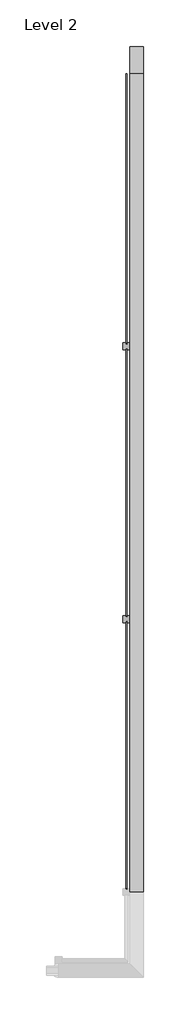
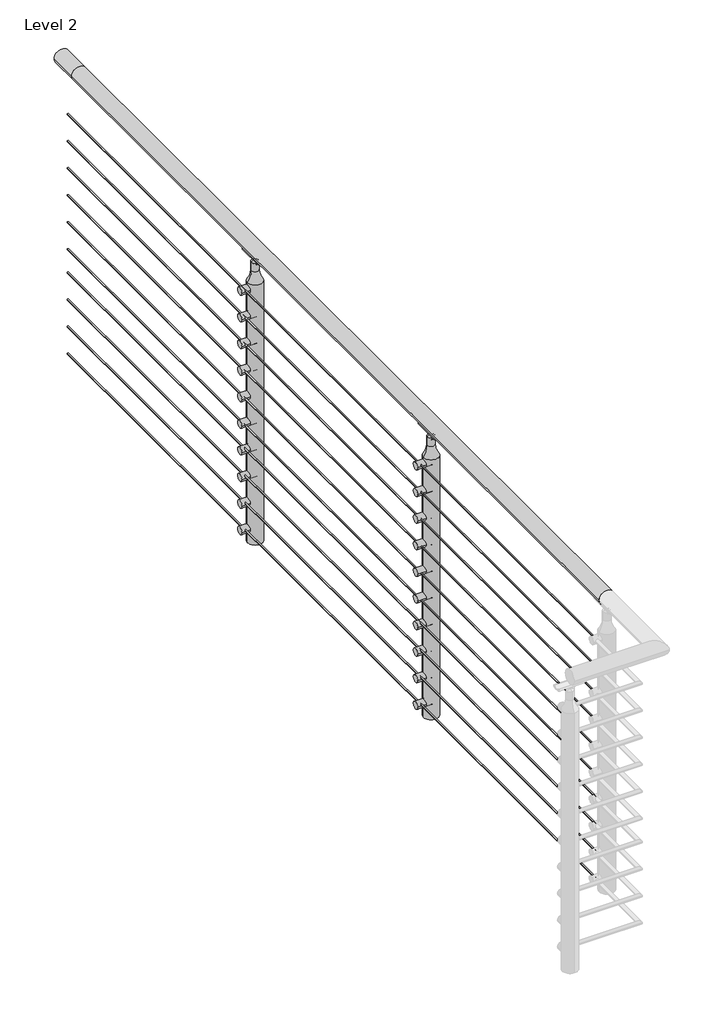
# One storey, part 7 of 21: 1 railing.
"""IFC4 building model written with IfcOpenShell, lengths in millimetres."""

import ifcopenshell
import ifcopenshell.guid

model = None  # the IFC model being written
_history = None  # IfcOwnerHistory: only IFC2X3 demands one
_inside = {}  # id of a spatial element -> (the spatial element, [elements in it])
_under = {}  # id of a project, library or spatial element -> (it, [spatial elements below it])
_declared = {}  # id of a project -> (the project, [libraries it declares])
_typed = {}  # id of a type object -> (the type object, [elements of that type])
_made_of = {}  # id of a material, layer set ... -> (it, [elements and type objects made of it])


def new_model(schema):
    """Start an empty IFC model of exactly this schema.

    Asked for "IFC4X3", IfcOpenShell would pick the latest addendum, in which some entities
    have other attributes; the version numbers below select the first issue.
    IFC2X3 requires an IfcOwnerHistory on every rooted entity: one is made here for all.
    """
    global model, _history
    if schema == "IFC4X3":
        model = ifcopenshell.file(schema_version=(4, 3, 0, 0))
    else:
        model = ifcopenshell.file(schema=schema)
    _inside.clear()
    _under.clear()
    _declared.clear()
    _typed.clear()
    _made_of.clear()
    _history = None
    if model.schema == "IFC2X3":
        org = make("IfcOrganization", Name="unknown")
        user = make(
            "IfcPersonAndOrganization",
            ThePerson=make("IfcPerson", FamilyName="unknown"),
            TheOrganization=org,
        )
        app = make(
            "IfcApplication",
            ApplicationDeveloper=org,
            Version="unknown",
            ApplicationFullName="unknown",
            ApplicationIdentifier="unknown",
        )
        _history = make(
            "IfcOwnerHistory",
            OwningUser=user,
            OwningApplication=app,
            ChangeAction="ADDED",
            CreationDate=0,
        )
    return model


def make(cls, **values):
    """One entity of the class cls with the attributes given. An attribute that is None is left unset."""
    return model.create_entity(
        cls, **{name: value for name, value in values.items() if value is not None}
    )


def rooted(cls, **values):
    """An entity with a GlobalId (a new one), such as an element, a storey or a relation."""
    return make(cls, GlobalId=ifcopenshell.guid.new(), OwnerHistory=_history, **values)


def si_unit(unit_type, name, prefix=None):
    """IfcSIUnit, for example si_unit("LENGTHUNIT", "METRE", prefix="MILLI")."""
    return make("IfcSIUnit", UnitType=unit_type, Prefix=prefix, Name=name)


def assignment(units):
    """IfcUnitAssignment: the units of a project."""
    return None if units is None else make("IfcUnitAssignment", Units=units)


def point(xyz):
    """IfcCartesianPoint."""
    return None if xyz is None else make("IfcCartesianPoint", Coordinates=xyz)


def direction(xyz):
    """IfcDirection."""
    return None if xyz is None else make("IfcDirection", DirectionRatios=xyz)


def frame(location, z_axis=None, x_axis=None):
    """IfcAxis2Placement3D, a coordinate frame: its origin and axes. An axis left out is left unset."""
    return make(
        "IfcAxis2Placement3D",
        Location=point(location),
        Axis=direction(z_axis),
        RefDirection=direction(x_axis),
    )


def frame_2d(location, x_axis=None):
    """IfcAxis2Placement2D, a coordinate frame in the plane: its origin and x axis."""
    return make(
        "IfcAxis2Placement2D", Location=point(location), RefDirection=direction(x_axis)
    )


def origin():
    """The frame at (0, 0, 0) with its axes left unset."""
    return frame((0.0, 0.0, 0.0))


def place(relative_to, where):
    """IfcLocalPlacement: puts the frame where relative to a parent placement (None: the world)."""
    return make(
        "IfcLocalPlacement", PlacementRelTo=relative_to, RelativePlacement=where
    )


def context(
    kind, dimensions, precision=None, world=None, true_north=None, identifier=None
):
    """IfcGeometricRepresentationContext, for example the 3D "Model" context."""
    return make(
        "IfcGeometricRepresentationContext",
        ContextIdentifier=identifier,
        ContextType=kind,
        CoordinateSpaceDimension=dimensions,
        Precision=precision,
        WorldCoordinateSystem=world,
        TrueNorth=true_north,
    )


def project(units=None, contexts=None):
    """IfcProject with its units and contexts."""
    return rooted(
        "IfcProject",
        Name="project",
        RepresentationContexts=contexts,
        UnitsInContext=assignment(units),
    )


def spatial(cls, under=None, at=None, **own):
    """A site, building, storey or space (cls), placed at a placement, below another one or the project."""
    s = rooted(cls, ObjectPlacement=at, **own)
    if under is not None:
        _under.setdefault(under.id(), (under, []))[1].append(s)
    return s


def polyline(points):
    """IfcPolyline through the points."""
    return make("IfcPolyline", Points=[point(p) for p in points])


def circle_curve(where, radius):
    """IfcCircle in the frame where."""
    return make("IfcCircle", Position=where, Radius=radius)


def ellipse_curve(where, semi_axis1, semi_axis2):
    """IfcEllipse in the frame where."""
    return make(
        "IfcEllipse", Position=where, SemiAxis1=semi_axis1, SemiAxis2=semi_axis2
    )


def trimmed(basis, trim1, trim2, sense, master):
    """IfcTrimmedCurve: the piece of a basis curve between two trims."""
    return make(
        "IfcTrimmedCurve",
        BasisCurve=basis,
        Trim1=trim1,
        Trim2=trim2,
        SenseAgreement=sense,
        MasterRepresentation=master,
    )


def segment(curve, same_sense, transition):
    """IfcCompositeCurveSegment."""
    return make(
        "IfcCompositeCurveSegment",
        Transition=transition,
        SameSense=same_sense,
        ParentCurve=curve,
    )


def composite_curve(segments, self_intersect=None):
    """IfcCompositeCurve: segments joined end to end."""
    return make("IfcCompositeCurve", Segments=segments, SelfIntersect=self_intersect)


def outline(outer, holes=None, kind="AREA"):
    """IfcArbitraryClosedProfileDef: a profile drawn as a closed curve; with holes, ...WithVoids."""
    if holes is None:
        return make("IfcArbitraryClosedProfileDef", ProfileType=kind, OuterCurve=outer)
    return make(
        "IfcArbitraryProfileDefWithVoids",
        ProfileType=kind,
        OuterCurve=outer,
        InnerCurves=holes,
    )


def extrude(swept, where, along, depth):
    """IfcExtrudedAreaSolid: the profile swept, set in the frame where, extruded along a direction by depth."""
    return make(
        "IfcExtrudedAreaSolid",
        SweptArea=swept,
        Position=where,
        ExtrudedDirection=direction(along),
        Depth=depth,
    )


def shape(context_of_items, identifier, shape_type, items):
    """IfcShapeRepresentation: the items that make up one representation, for example the "Body"."""
    return make(
        "IfcShapeRepresentation",
        ContextOfItems=context_of_items,
        RepresentationIdentifier=identifier,
        RepresentationType=shape_type,
        Items=items,
    )


def made_of(thing, what):
    """Note that an element or type object is made of a material, layer set ...; save() writes the relation."""
    if what is not None:
        _made_of.setdefault(what.id(), (what, []))[1].append(thing)
    return thing


def element(
    cls,
    number,
    at=None,
    inside=None,
    cuts=None,
    type_object=None,
    material=None,
    context=None,
    identifier="Body",
    shape_type=None,
    held_by="IfcProductDefinitionShape",
    body=None,
    shapes=None,
    **own,
):
    """One element of the class cls, such as IfcWall. Its Tag is "e" and its number.

    at: its placement. inside: the storey or other place that contains it. cuts: it is an
    opening in that element (IfcRelVoidsElement). A single representation is given by context,
    identifier, shape_type and body (its items); several are given by shapes. held_by: the class
    of the entity that holds the representations. save() writes the other relations.
    """
    e = rooted(cls, Tag="e%d" % number, ObjectPlacement=at, **own)
    if body is not None:
        shapes = [shape(context, identifier, shape_type, body)]
    if shapes is not None:
        e.Representation = make(held_by, Representations=shapes)
    if inside is not None:
        _inside.setdefault(inside.id(), (inside, []))[1].append(e)
    if cuts is not None:
        rooted(
            "IfcRelVoidsElement", RelatingBuildingElement=cuts, RelatedOpeningElement=e
        )
    if type_object is not None:
        _typed.setdefault(type_object.id(), (type_object, []))[1].append(e)
    return made_of(e, material)


def aggregate(whole, parts):
    """IfcRelAggregates: a whole, such as a stair, and the parts it consists of."""
    return rooted("IfcRelAggregates", RelatingObject=whole, RelatedObjects=parts)


def save(model, path):
    """Write the relations noted so far, then the file.

    IfcRelAggregates (storeys below a building ...), IfcRelContainedInSpatialStructure (elements
    in a storey), IfcRelDefinesByType, IfcRelAssociatesMaterial and IfcRelDeclares: one each for
    every whole, place, type object, material and project.
    """
    for whole, parts in _under.values():
        aggregate(whole, parts)
    for where, things in _inside.values():
        rooted(
            "IfcRelContainedInSpatialStructure",
            RelatedElements=things,
            RelatingStructure=where,
        )
    for kind, things in _typed.values():
        rooted("IfcRelDefinesByType", RelatedObjects=things, RelatingType=kind)
    for what, things in _made_of.values():
        rooted("IfcRelAssociatesMaterial", RelatedObjects=things, RelatingMaterial=what)
    for by, libraries in _declared.values():
        rooted("IfcRelDeclares", RelatingContext=by, RelatedDefinitions=libraries)
    model.write(path)


def plane_surface(at):
    """IfcPlane: the flat surface through the origin of the frame at, square to its z axis."""
    return make("IfcPlane", Position=at)


def cylinder_surface(at, radius):
    """IfcCylindricalSurface: all points at the distance radius from the z axis of the frame at."""
    return make("IfcCylindricalSurface", Position=at, Radius=radius)


def revolved_surface(curve, axis_point, axis_direction):
    """IfcSurfaceOfRevolution: the curve turned about the line through axis_point along axis_direction."""
    return make(
        "IfcSurfaceOfRevolution",
        SweptCurve=make("IfcArbitraryOpenProfileDef", ProfileType="CURVE", Curve=curve),
        AxisPosition=make("IfcAxis1Placement", Location=point(axis_point), Axis=direction(axis_direction)),
    )


def advanced_brep(points, edges, surfaces, faces):
    """IfcAdvancedBrep: a solid bounded by faces that lie on surfaces and meet in shared edges.

    An edge is (start, end): straight between two places in points (the first is 0);
    or (start, end, curve); or (start, end, curve, False) where it runs against its curve.
    A face is (place in surfaces, loops), or (place, loops, False) where it looks against
    its surface's normal. A loop lists edges by number (the first is 1), with a minus sign
    where the edge is run from its end to its start. The first loop is the outer one.
    """
    corners = [point(p) for p in points]
    vertices = [make("IfcVertexPoint", VertexGeometry=c) for c in corners]
    made = []
    for start, end, *more in edges:
        made.append(
            make(
                "IfcEdgeCurve",
                EdgeStart=vertices[start],
                EdgeEnd=vertices[end],
                EdgeGeometry=more[0] if more else make("IfcPolyline", Points=[corners[start], corners[end]]),
                SameSense=more[1] if len(more) > 1 else True,
            )
        )
    hull = []
    for where, loops, *sense in faces:
        bounds = []
        for j, loop in enumerate(loops):
            ring = [make("IfcOrientedEdge", EdgeElement=made[abs(k) - 1], Orientation=k > 0) for k in loop]
            bounds.append(
                make(
                    "IfcFaceOuterBound" if j == 0 else "IfcFaceBound",
                    Bound=make("IfcEdgeLoop", EdgeList=ring),
                    Orientation=True,
                )
            )
        hull.append(make("IfcAdvancedFace", Bounds=bounds, FaceSurface=surfaces[where], SameSense=sense[0] if sense else True))
    return make("IfcAdvancedBrep", Outer=make("IfcClosedShell", CfsFaces=hull))


model = new_model("IFC4")

# Units and contexts
model_context = context("Model", 3, world=origin())
ifc_project = project(units=[si_unit("LENGTHUNIT", "METRE", prefix="MILLI")], contexts=[model_context])

# Site, building, storey
site = spatial("IfcSite", under=ifc_project)
building = spatial("IfcBuilding", under=site)
storey = spatial("IfcBuildingStorey", under=building, Name="Level 2", Elevation=3048.0)

# Railing
placement = place(None, origin())
element("IfcRailing", 1, ObjectType="VIVA-CIRCA-Multiline-Cable-Weld Mount-Straight", at=placement, inside=storey, context=model_context, shape_type="SolidModel", body=[
    advanced_brep(
    [(46443.7072927, -68527.1034511, 4102.1), (46392.9072927, -68527.1034511, 4102.1), (46443.7072927, -65479.1034511, 4102.1), (46392.9072927, -65479.1034511, 4102.1), (46443.7072927, -65377.5034511, 4102.1), (46392.9072927, -65377.5034511, 4102.1)],
    [
        (0, 1, circle_curve(frame((46418.3072927, -68527.1034511, 4102.1), z_axis=(0.0, -1.0, 0.0), x_axis=(-1.0, 0.0, 0.0)), 25.4)),
        (1, 0, circle_curve(frame((46418.3072927, -68527.1034511, 4102.1), z_axis=(0.0, -1.0, 0.0), x_axis=(-1.0, 0.0, 0.0)), 25.4)),
        (0, 2),
        (2, 3, circle_curve(frame((46418.3072927, -65479.1034511, 4102.1), z_axis=(0.0, -1.0, 0.0), x_axis=(-1.0, 0.0, 0.0)), 25.4)),
        (3, 1),
        (3, 2, circle_curve(frame((46418.3072927, -65479.1034511, 4102.1), z_axis=(0.0, -1.0, 0.0), x_axis=(-1.0, 0.0, 0.0)), 25.4)),
        (4, 5, circle_curve(frame((46418.3072927, -65377.5034511, 4102.1), z_axis=(0.0, 1.0, 0.0), x_axis=(-1.0, 0.0, 0.0)), 25.4)),
        (5, 4, circle_curve(frame((46418.3072927, -65377.5034511, 4102.1), z_axis=(0.0, 1.0, 0.0), x_axis=(-1.0, 0.0, 0.0)), 25.4)),
        (2, 4),
        (5, 3),
    ],
    [
        plane_surface(frame((46418.3072927, -68527.1034511, 4127.5), z_axis=(0.0, -1.0, 0.0), x_axis=(0.0, 0.0, 1.0))),
        cylinder_surface(frame((46418.3072927, -68527.1034511, 4102.1), z_axis=(0.0, -1.0, 0.0), x_axis=(-1.0, 0.0, 0.0)), 25.4),
        plane_surface(frame((46418.3072927, -65377.5034511, 4127.5), z_axis=(0.0, 1.0, 0.0), x_axis=(0.0, 0.0, 1.0))),
        cylinder_surface(frame((46418.3072927, -65479.1034511, 4102.1), z_axis=(0.0, -1.0, 0.0), x_axis=(-1.0, 0.0, 0.0)), 25.4),
    ],
    [
        (0, [[1, 2]]),
        (1, [[-1, 3, 4, 5]]),
        (1, [[-2, -5, 6, -3]]),
        (2, [[7, 8]]),
        (3, [[-4, 9, -8, 10]]),
        (3, [[-6, -10, -7, -9]]),
    ],
),
    extrude(outline(composite_curve([segment(trimmed(circle_curve(frame_2d((3972.7124, 46380.2072927)), 2.3876), [point((3972.7124, 46377.8196927))], [point((3972.7124, 46382.5948927))], False, "CARTESIAN"), True, "CONTINUOUS"), segment(trimmed(circle_curve(frame_2d((3972.7124, 46380.2072927)), 2.3876), [point((3972.7124, 46382.5948927))], [point((3972.7124, 46377.8196927))], False, "CARTESIAN"), True, "CONTINUOUS")], self_intersect=False)), frame((0.0, -68527.1034511, 0.0), z_axis=(0.0, 1.0, 0.0), x_axis=(0.0, 0.0, 1.0)), (0.0, 0.0, 1.0), 3048.0),
    extrude(outline(composite_curve([segment(trimmed(circle_curve(frame_2d((3877.4624, 46380.2072927)), 2.3876), [point((3877.4624, 46377.8196927))], [point((3877.4624, 46382.5948927))], False, "CARTESIAN"), True, "CONTINUOUS"), segment(trimmed(circle_curve(frame_2d((3877.4624, 46380.2072927)), 2.3876), [point((3877.4624, 46382.5948927))], [point((3877.4624, 46377.8196927))], False, "CARTESIAN"), True, "CONTINUOUS")], self_intersect=False)), frame((0.0, -68527.1034511, 0.0), z_axis=(0.0, 1.0, 0.0), x_axis=(0.0, 0.0, 1.0)), (0.0, 0.0, 1.0), 3048.0),
    extrude(outline(composite_curve([segment(trimmed(circle_curve(frame_2d((3782.2124, 46380.2072927)), 2.3876), [point((3782.2124, 46377.8196927))], [point((3782.2124, 46382.5948927))], False, "CARTESIAN"), True, "CONTINUOUS"), segment(trimmed(circle_curve(frame_2d((3782.2124, 46380.2072927)), 2.3876), [point((3782.2124, 46382.5948927))], [point((3782.2124, 46377.8196927))], False, "CARTESIAN"), True, "CONTINUOUS")], self_intersect=False)), frame((0.0, -68527.1034511, 0.0), z_axis=(0.0, 1.0, 0.0), x_axis=(0.0, 0.0, 1.0)), (0.0, 0.0, 1.0), 3048.0),
    extrude(outline(composite_curve([segment(trimmed(circle_curve(frame_2d((3686.9624, 46380.2072927)), 2.3876), [point((3686.9624, 46377.8196927))], [point((3686.9624, 46382.5948927))], False, "CARTESIAN"), True, "CONTINUOUS"), segment(trimmed(circle_curve(frame_2d((3686.9624, 46380.2072927)), 2.3876), [point((3686.9624, 46382.5948927))], [point((3686.9624, 46377.8196927))], False, "CARTESIAN"), True, "CONTINUOUS")], self_intersect=False)), frame((0.0, -68527.1034511, 0.0), z_axis=(0.0, 1.0, 0.0), x_axis=(0.0, 0.0, 1.0)), (0.0, 0.0, 1.0), 3048.0),
    extrude(outline(composite_curve([segment(trimmed(circle_curve(frame_2d((3591.7124, 46380.2072927)), 2.3876), [point((3591.7124, 46377.8196927))], [point((3591.7124, 46382.5948927))], False, "CARTESIAN"), True, "CONTINUOUS"), segment(trimmed(circle_curve(frame_2d((3591.7124, 46380.2072927)), 2.3876), [point((3591.7124, 46382.5948927))], [point((3591.7124, 46377.8196927))], False, "CARTESIAN"), True, "CONTINUOUS")], self_intersect=False)), frame((0.0, -68527.1034511, 0.0), z_axis=(0.0, 1.0, 0.0), x_axis=(0.0, 0.0, 1.0)), (0.0, 0.0, 1.0), 3048.0),
    extrude(outline(composite_curve([segment(trimmed(circle_curve(frame_2d((3496.4624, 46380.2072927)), 2.3876), [point((3496.4624, 46377.8196927))], [point((3496.4624, 46382.5948927))], False, "CARTESIAN"), True, "CONTINUOUS"), segment(trimmed(circle_curve(frame_2d((3496.4624, 46380.2072927)), 2.3876), [point((3496.4624, 46382.5948927))], [point((3496.4624, 46377.8196927))], False, "CARTESIAN"), True, "CONTINUOUS")], self_intersect=False)), frame((0.0, -68527.1034511, 0.0), z_axis=(0.0, 1.0, 0.0), x_axis=(0.0, 0.0, 1.0)), (0.0, 0.0, 1.0), 3048.0),
    extrude(outline(composite_curve([segment(trimmed(circle_curve(frame_2d((3413.9124, 46380.2072927)), 2.3876), [point((3413.9124, 46377.8196927))], [point((3413.9124, 46382.5948927))], False, "CARTESIAN"), True, "CONTINUOUS"), segment(trimmed(circle_curve(frame_2d((3413.9124, 46380.2072927)), 2.3876), [point((3413.9124, 46382.5948927))], [point((3413.9124, 46377.8196927))], False, "CARTESIAN"), True, "CONTINUOUS")], self_intersect=False)), frame((0.0, -68527.1034511, 0.0), z_axis=(0.0, 1.0, 0.0), x_axis=(0.0, 0.0, 1.0)), (0.0, 0.0, 1.0), 3048.0),
    extrude(outline(composite_curve([segment(trimmed(circle_curve(frame_2d((3318.6624, 46380.2072927)), 2.3876), [point((3318.6624, 46377.8196927))], [point((3318.6624, 46382.5948927))], False, "CARTESIAN"), True, "CONTINUOUS"), segment(trimmed(circle_curve(frame_2d((3318.6624, 46380.2072927)), 2.3876), [point((3318.6624, 46382.5948927))], [point((3318.6624, 46377.8196927))], False, "CARTESIAN"), True, "CONTINUOUS")], self_intersect=False)), frame((0.0, -68527.1034511, 0.0), z_axis=(0.0, 1.0, 0.0), x_axis=(0.0, 0.0, 1.0)), (0.0, 0.0, 1.0), 3048.0),
    extrude(outline(composite_curve([segment(trimmed(circle_curve(frame_2d((3223.4124, 46380.2072927)), 2.3876), [point((3223.4124, 46377.8196927))], [point((3223.4124, 46382.5948927))], False, "CARTESIAN"), True, "CONTINUOUS"), segment(trimmed(circle_curve(frame_2d((3223.4124, 46380.2072927)), 2.3876), [point((3223.4124, 46382.5948927))], [point((3223.4124, 46377.8196927))], False, "CARTESIAN"), True, "CONTINUOUS")], self_intersect=False)), frame((0.0, -68527.1034511, 0.0), z_axis=(0.0, 1.0, 0.0), x_axis=(0.0, 0.0, 1.0)), (0.0, 0.0, 1.0), 3048.0),
    extrude(outline(composite_curve([segment(trimmed(circle_curve(frame_2d((3128.1624, 46380.2072927)), 2.3876), [point((3128.1624, 46377.8196927))], [point((3128.1624, 46382.5948927))], False, "CARTESIAN"), True, "CONTINUOUS"), segment(trimmed(circle_curve(frame_2d((3128.1624, 46380.2072927)), 2.3876), [point((3128.1624, 46382.5948927))], [point((3128.1624, 46377.8196927))], False, "CARTESIAN"), True, "CONTINUOUS")], self_intersect=False)), frame((0.0, -68527.1034511, 0.0), z_axis=(0.0, 1.0, 0.0), x_axis=(0.0, 0.0, 1.0)), (0.0, 0.0, 1.0), 3048.0),
    extrude(outline(composite_curve([segment(trimmed(circle_curve(frame_2d((-66494.3097011, 3124.2)), 12.666458), [point((-66481.6432432, 3124.2))], [point((-66506.9761591, 3124.2))], False, "CARTESIAN"), True, "CONTINUOUS"), segment(trimmed(circle_curve(frame_2d((-66494.3097011, 3124.2)), 12.666458), [point((-66506.9761591, 3124.2))], [point((-66481.6432432, 3124.2))], False, "CARTESIAN"), True, "CONTINUOUS")], self_intersect=False)), frame((46367.5072927, 0.0, 0.0), z_axis=(1.0, 0.0, 0.0), x_axis=(0.0, 1.0, 0.0)), (0.0, 0.0, 1.0), 50.8),
    extrude(outline(composite_curve([segment(trimmed(circle_curve(frame_2d((-66494.3097011, 3218.0388889)), 12.666458), [point((-66481.6432432, 3218.0388889))], [point((-66506.9761591, 3218.0388889))], False, "CARTESIAN"), True, "CONTINUOUS"), segment(trimmed(circle_curve(frame_2d((-66494.3097011, 3218.0388889)), 12.666458), [point((-66506.9761591, 3218.0388889))], [point((-66481.6432432, 3218.0388889))], False, "CARTESIAN"), True, "CONTINUOUS")], self_intersect=False)), frame((46367.5072927, 0.0, 0.0), z_axis=(1.0, 0.0, 0.0), x_axis=(0.0, 1.0, 0.0)), (0.0, 0.0, 1.0), 50.8),
    extrude(outline(composite_curve([segment(trimmed(circle_curve(frame_2d((-66494.3097011, 3311.8777778)), 12.666458), [point((-66481.6432432, 3311.8777778))], [point((-66506.9761591, 3311.8777778))], False, "CARTESIAN"), True, "CONTINUOUS"), segment(trimmed(circle_curve(frame_2d((-66494.3097011, 3311.8777778)), 12.666458), [point((-66506.9761591, 3311.8777778))], [point((-66481.6432432, 3311.8777778))], False, "CARTESIAN"), True, "CONTINUOUS")], self_intersect=False)), frame((46367.5072927, 0.0, 0.0), z_axis=(1.0, 0.0, 0.0), x_axis=(0.0, 1.0, 0.0)), (0.0, 0.0, 1.0), 50.8),
    extrude(outline(composite_curve([segment(trimmed(circle_curve(frame_2d((-66494.3097011, 3405.7166667)), 12.666458), [point((-66481.6432432, 3405.7166667))], [point((-66506.9761591, 3405.7166667))], False, "CARTESIAN"), True, "CONTINUOUS"), segment(trimmed(circle_curve(frame_2d((-66494.3097011, 3405.7166667)), 12.666458), [point((-66506.9761591, 3405.7166667))], [point((-66481.6432432, 3405.7166667))], False, "CARTESIAN"), True, "CONTINUOUS")], self_intersect=False)), frame((46367.5072927, 0.0, 0.0), z_axis=(1.0, 0.0, 0.0), x_axis=(0.0, 1.0, 0.0)), (0.0, 0.0, 1.0), 50.8),
    extrude(outline(composite_curve([segment(trimmed(circle_curve(frame_2d((-66494.3097011, 3499.5555556)), 12.666458), [point((-66481.6432432, 3499.5555556))], [point((-66506.9761591, 3499.5555556))], False, "CARTESIAN"), True, "CONTINUOUS"), segment(trimmed(circle_curve(frame_2d((-66494.3097011, 3499.5555556)), 12.666458), [point((-66506.9761591, 3499.5555556))], [point((-66481.6432432, 3499.5555556))], False, "CARTESIAN"), True, "CONTINUOUS")], self_intersect=False)), frame((46367.5072927, 0.0, 0.0), z_axis=(1.0, 0.0, 0.0), x_axis=(0.0, 1.0, 0.0)), (0.0, 0.0, 1.0), 50.8),
    extrude(outline(composite_curve([segment(trimmed(circle_curve(frame_2d((-66494.3097011, 3593.3944444)), 12.666458), [point((-66481.6432432, 3593.3944444))], [point((-66506.9761591, 3593.3944444))], False, "CARTESIAN"), True, "CONTINUOUS"), segment(trimmed(circle_curve(frame_2d((-66494.3097011, 3593.3944444)), 12.666458), [point((-66506.9761591, 3593.3944444))], [point((-66481.6432432, 3593.3944444))], False, "CARTESIAN"), True, "CONTINUOUS")], self_intersect=False)), frame((46367.5072927, 0.0, 0.0), z_axis=(1.0, 0.0, 0.0), x_axis=(0.0, 1.0, 0.0)), (0.0, 0.0, 1.0), 50.8),
    extrude(outline(composite_curve([segment(trimmed(circle_curve(frame_2d((-66494.3097011, 3687.2333333)), 12.666458), [point((-66481.6432432, 3687.2333333))], [point((-66506.9761591, 3687.2333333))], False, "CARTESIAN"), True, "CONTINUOUS"), segment(trimmed(circle_curve(frame_2d((-66494.3097011, 3687.2333333)), 12.666458), [point((-66506.9761591, 3687.2333333))], [point((-66481.6432432, 3687.2333333))], False, "CARTESIAN"), True, "CONTINUOUS")], self_intersect=False)), frame((46367.5072927, 0.0, 0.0), z_axis=(1.0, 0.0, 0.0), x_axis=(0.0, 1.0, 0.0)), (0.0, 0.0, 1.0), 50.8),
    extrude(outline(composite_curve([segment(trimmed(circle_curve(frame_2d((-66494.3097011, 3781.0722222)), 12.666458), [point((-66481.6432432, 3781.0722222))], [point((-66506.9761591, 3781.0722222))], False, "CARTESIAN"), True, "CONTINUOUS"), segment(trimmed(circle_curve(frame_2d((-66494.3097011, 3781.0722222)), 12.666458), [point((-66506.9761591, 3781.0722222))], [point((-66481.6432432, 3781.0722222))], False, "CARTESIAN"), True, "CONTINUOUS")], self_intersect=False)), frame((46367.5072927, 0.0, 0.0), z_axis=(1.0, 0.0, 0.0), x_axis=(0.0, 1.0, 0.0)), (0.0, 0.0, 1.0), 50.8),
    extrude(outline(composite_curve([segment(trimmed(circle_curve(frame_2d((-66494.3097011, 3968.75)), 12.666458), [point((-66481.6432432, 3968.75))], [point((-66506.9761591, 3968.75))], False, "CARTESIAN"), True, "CONTINUOUS"), segment(trimmed(circle_curve(frame_2d((-66494.3097011, 3968.75)), 12.666458), [point((-66506.9761591, 3968.75))], [point((-66481.6432432, 3968.75))], False, "CARTESIAN"), True, "CONTINUOUS")], self_intersect=False)), frame((46367.5072927, 0.0, 0.0), z_axis=(1.0, 0.0, 0.0), x_axis=(0.0, 1.0, 0.0)), (0.0, 0.0, 1.0), 50.8),
    extrude(outline(composite_curve([segment(trimmed(circle_curve(frame_2d((-66494.3097011, 3874.9111111)), 12.666458), [point((-66481.6432432, 3874.9111111))], [point((-66506.9761591, 3874.9111111))], False, "CARTESIAN"), True, "CONTINUOUS"), segment(trimmed(circle_curve(frame_2d((-66494.3097011, 3874.9111111)), 12.666458), [point((-66506.9761591, 3874.9111111))], [point((-66481.6432432, 3874.9111111))], False, "CARTESIAN"), True, "CONTINUOUS")], self_intersect=False)), frame((46367.5072927, 0.0, 0.0), z_axis=(1.0, 0.0, 0.0), x_axis=(0.0, 1.0, 0.0)), (0.0, 0.0, 1.0), 50.8),
    extrude(outline(composite_curve([segment(trimmed(circle_curve(frame_2d((4103.4254922, 46418.2105643)), 25.4345159), [point((4081.3106679, 46430.7743672))], [point((4081.2157471, 46405.8153306))], True, "CARTESIAN"), True, "CONTINUOUS"), segment(trimmed(circle_curve(frame_2d((4078.7132623, 46404.5706774)), 2.7949225), [point((4081.2157471, 46405.8153306))], [point((4076.3406769, 46403.0933724))], False, "CARTESIAN"), True, "CONTINUOUS"), segment(trimmed(circle_curve(frame_2d((4104.1881188, 46418.3440274)), 31.75), [point((4076.3406769, 46403.0933724))], [point((4076.9214354, 46434.6102646))], False, "CARTESIAN"), True, "CONTINUOUS"), segment(trimmed(circle_curve(frame_2d((4078.7923545, 46432.3219249)), 2.9558141), [point((4076.9214354, 46434.6102646))], [point((4081.3106679, 46430.7743672))], False, "CARTESIAN"), True, "CONTINUOUS")], self_intersect=False)), frame((0.0, -66539.9439761, 0.0), z_axis=(0.0, 1.0, 0.0), x_axis=(0.0, 0.0, 1.0)), (0.0, 0.0, 1.0), 90.4748),
    advanced_brep(
    [(46415.7672927, -66467.6386612, 4072.6506908), (46415.7672927, -66482.0065761, 4058.282776), (46415.7672927, -66507.4065761, 4058.282776), (46415.7672927, -66521.774491, 4072.6506908), (46420.8472927, -66467.6386612, 4072.6506908), (46420.8472927, -66521.774491, 4072.6506908), (46420.8472927, -66507.4065761, 4058.282776), (46420.8472927, -66482.0065761, 4058.282776)],
    [
        (0, 1, circle_curve(frame((46415.7672927, -66467.6386612, 4058.282776), z_axis=(1.0, 0.0, 0.0), x_axis=(0.0, -1.0, 0.0)), 14.3679149)),
        (1, 2, circle_curve(frame((46415.7672927, -66494.7065761, 4058.282776), z_axis=(-1.0, 0.0, 0.0), x_axis=(0.0, -1.0, 0.0)), 12.7)),
        (2, 3, circle_curve(frame((46415.7672927, -66521.774491, 4058.282776), z_axis=(1.0, 0.0, 0.0), x_axis=(0.0, -1.0, 0.0)), 14.3679149)),
        (3, 0),
        (4, 5),
        (5, 6, circle_curve(frame((46420.8472927, -66521.774491, 4058.282776), z_axis=(-1.0, 0.0, 0.0), x_axis=(0.0, -1.0, 0.0)), 14.3679149)),
        (6, 7, circle_curve(frame((46420.8472927, -66494.7065761, 4058.282776), z_axis=(1.0, 0.0, 0.0), x_axis=(0.0, -1.0, 0.0)), 12.7)),
        (7, 4, circle_curve(frame((46420.8472927, -66467.6386612, 4058.282776), z_axis=(-1.0, 0.0, 0.0), x_axis=(0.0, -1.0, 0.0)), 14.3679149)),
        (0, 4),
        (7, 1),
        (6, 2),
        (5, 3),
    ],
    [
        plane_surface(frame((46415.7672927, -66482.0065761, 4058.282776), z_axis=(-1.0, 0.0, 0.0), x_axis=(0.0, 0.0, -1.0))),
        plane_surface(frame((46420.8472927, -66482.0065761, 4058.282776), z_axis=(1.0, 0.0, 0.0), x_axis=(0.0, 0.0, 1.0))),
        revolved_surface(polyline([(46420.8472927, -66482.0065761, 4058.282776), (46415.7672927, -66482.0065761, 4058.282776)]), (46420.8472927, -66467.6386612, 4058.282776), (1.0, 0.0, 0.0)),
        cylinder_surface(frame((46420.8472927, -66494.7065761, 4058.282776), z_axis=(-1.0, 0.0, 0.0), x_axis=(0.0, -1.0, 0.0)), 12.7),
        revolved_surface(polyline([(46420.8472927, -66536.1424059, 4058.282776), (46415.7672927, -66536.1424059, 4058.282776)]), (46420.8472927, -66521.774491, 4058.282776), (1.0, 0.0, 0.0)),
        plane_surface(frame((46415.7672927, -66521.774491, 4072.6506908), z_axis=(0.0, 0.0, 1.0), x_axis=(1.0, 0.0, 0.0))),
    ],
    [
        (0, [[1, 2, 3, 4]]),
        (1, [[5, 6, 7, 8]]),
        (2, [[-1, 9, -8, 10]]),
        (3, [[-2, -10, -7, 11]]),
        (4, [[-3, -11, -6, 12]]),
        (5, [[-4, -12, -5, -9]]),
    ],
),
    advanced_brep(
    [(46443.7066905, -66494.7065761, 3989.1347854), (46392.9078949, -66494.7065761, 3989.1347854), (46392.9078949, -66494.7065761, 3073.4), (46443.7066905, -66494.7065761, 3073.4), (46431.0452612, -66494.7065761, 4027.3486202), (46405.5693241, -66494.7065761, 4027.3486202), (46431.0452612, -66494.7065761, 4056.5779599), (46405.5693241, -66494.7065761, 4056.5779599), (46418.3072927, -66494.7065761, 4063.238668), (46418.3072927, -66494.7065761, 3073.4)],
    [
        (0, 1, circle_curve(frame((46418.3072927, -66494.7065761, 3989.1347854), z_axis=(0.0, 0.0, -1.0), x_axis=(-1.0, 0.0, 0.0)), 25.3993978)),
        (1, 2),
        (2, 3, circle_curve(frame((46418.3072927, -66494.7065761, 3073.4), z_axis=(0.0, 0.0, 1.0), x_axis=(-1.0, 0.0, 0.0)), 25.3993978)),
        (3, 0),
        (1, 0, circle_curve(frame((46418.3072927, -66494.7065761, 3989.1347854), z_axis=(0.0, 0.0, -1.0), x_axis=(-1.0, 0.0, 0.0)), 25.3993978)),
        (3, 2, circle_curve(frame((46418.3072927, -66494.7065761, 3073.4), z_axis=(0.0, 0.0, 1.0), x_axis=(-1.0, 0.0, 0.0)), 25.3993978)),
        (4, 5, circle_curve(frame((46418.3072927, -66494.7065761, 4027.3486202), z_axis=(0.0, 0.0, -1.0), x_axis=(-1.0, 0.0, 0.0)), 12.7379685)),
        (5, 1, circle_curve(frame((46341.5714558, -66494.7065761, 4027.3486202), z_axis=(0.0, 1.0, 0.0), x_axis=(-1.0, 0.0, 0.0)), 63.9978683)),
        (0, 4, circle_curve(frame((46495.0431295, -66494.7065761, 4027.3486202), z_axis=(0.0, 1.0, 0.0), x_axis=(1.0, 0.0, 0.0)), 63.9978683)),
        (5, 4, circle_curve(frame((46418.3072927, -66494.7065761, 4027.3486202), z_axis=(0.0, 0.0, -1.0), x_axis=(-1.0, 0.0, 0.0)), 12.7379685)),
        (6, 7, circle_curve(frame((46418.3072927, -66494.7065761, 4056.5779599), z_axis=(0.0, 0.0, -1.0), x_axis=(-1.0, 0.0, 0.0)), 12.7379685)),
        (7, 5),
        (4, 6),
        (7, 6, circle_curve(frame((46418.3072927, -66494.7065761, 4056.5779599), z_axis=(0.0, 0.0, -1.0), x_axis=(-1.0, 0.0, 0.0)), 12.7379685)),
        (8, 7, circle_curve(frame((46418.3072927, -66494.7065761, 4047.7282394), z_axis=(0.0, -1.0, 0.0), x_axis=(-1.0, 0.0, 0.0)), 15.5104286)),
        (6, 8, circle_curve(frame((46418.3072927, -66494.7065761, 4047.7282394), z_axis=(0.0, -1.0, 0.0), x_axis=(1.0, 0.0, 0.0)), 15.5104286)),
        (2, 9),
        (9, 3),
    ],
    [
        cylinder_surface(frame((46418.3072927, -66494.7065761, 4152.9), z_axis=(0.0, 0.0, 1.0), x_axis=(-1.0, 0.0, 0.0)), 25.3993978),
        revolved_surface(trimmed(ellipse_curve(frame((46341.5714558, -66494.7065761, 4027.3486202), z_axis=(0.0, -1.0, 0.0), x_axis=(-1.0, 0.0, 0.0)), 63.9978683, 63.9978683), [point((46392.9078949, -66494.7065761, 3989.1347854))], [point((46405.5693241, -66494.7065761, 4027.3486202))], True, "CARTESIAN"), (46418.3072927, -66494.7065761, 4152.9), (0.0, 0.0, 1.0)),
        cylinder_surface(frame((46418.3072927, -66494.7065761, 4152.9), z_axis=(0.0, 0.0, 1.0), x_axis=(-1.0, 0.0, 0.0)), 12.7379685),
        revolved_surface(trimmed(ellipse_curve(frame((46418.3072927, -66494.7065761, 4047.7282394), z_axis=(0.0, 1.0, 0.0), x_axis=(-1.0, 0.0, 0.0)), 15.5104286, 15.5104286), [point((46405.5693241, -66494.7065761, 4056.5779599))], [point((46418.3072927, -66494.7065761, 4063.238668))], True, "CARTESIAN"), (46418.3072927, -66494.7065761, 4152.9), (0.0, 0.0, 1.0)),
        plane_surface(frame((46418.3072927, -66494.7065761, 3073.4), z_axis=(0.0, 0.0, -1.0), x_axis=(-1.0, 0.0, 0.0))),
    ],
    [
        (0, [[1, 2, 3, 4]]),
        (0, [[5, -4, 6, -2]]),
        (1, [[7, 8, -1, 9]]),
        (1, [[10, -9, -5, -8]]),
        (2, [[11, 12, -7, 13]]),
        (2, [[14, -13, -10, -12]]),
        (3, [[15, -11, 16]]),
        (3, [[-16, -14, -15]]),
        (4, [[-3, 17, 18]]),
        (4, [[-6, -18, -17]]),
    ],
),
    extrude(outline(composite_curve([segment(trimmed(circle_curve(frame_2d((-67510.3097011, 3124.2)), 12.666458), [point((-67497.6432432, 3124.2))], [point((-67522.9761591, 3124.2))], False, "CARTESIAN"), True, "CONTINUOUS"), segment(trimmed(circle_curve(frame_2d((-67510.3097011, 3124.2)), 12.666458), [point((-67522.9761591, 3124.2))], [point((-67497.6432432, 3124.2))], False, "CARTESIAN"), True, "CONTINUOUS")], self_intersect=False)), frame((46367.5072927, 0.0, 0.0), z_axis=(1.0, 0.0, 0.0), x_axis=(0.0, 1.0, 0.0)), (0.0, 0.0, 1.0), 50.8),
    extrude(outline(composite_curve([segment(trimmed(circle_curve(frame_2d((-67510.3097011, 3218.0388889)), 12.666458), [point((-67497.6432432, 3218.0388889))], [point((-67522.9761591, 3218.0388889))], False, "CARTESIAN"), True, "CONTINUOUS"), segment(trimmed(circle_curve(frame_2d((-67510.3097011, 3218.0388889)), 12.666458), [point((-67522.9761591, 3218.0388889))], [point((-67497.6432432, 3218.0388889))], False, "CARTESIAN"), True, "CONTINUOUS")], self_intersect=False)), frame((46367.5072927, 0.0, 0.0), z_axis=(1.0, 0.0, 0.0), x_axis=(0.0, 1.0, 0.0)), (0.0, 0.0, 1.0), 50.8),
    extrude(outline(composite_curve([segment(trimmed(circle_curve(frame_2d((-67510.3097011, 3311.8777778)), 12.666458), [point((-67497.6432432, 3311.8777778))], [point((-67522.9761591, 3311.8777778))], False, "CARTESIAN"), True, "CONTINUOUS"), segment(trimmed(circle_curve(frame_2d((-67510.3097011, 3311.8777778)), 12.666458), [point((-67522.9761591, 3311.8777778))], [point((-67497.6432432, 3311.8777778))], False, "CARTESIAN"), True, "CONTINUOUS")], self_intersect=False)), frame((46367.5072927, 0.0, 0.0), z_axis=(1.0, 0.0, 0.0), x_axis=(0.0, 1.0, 0.0)), (0.0, 0.0, 1.0), 50.8),
    extrude(outline(composite_curve([segment(trimmed(circle_curve(frame_2d((-67510.3097011, 3405.7166667)), 12.666458), [point((-67497.6432432, 3405.7166667))], [point((-67522.9761591, 3405.7166667))], False, "CARTESIAN"), True, "CONTINUOUS"), segment(trimmed(circle_curve(frame_2d((-67510.3097011, 3405.7166667)), 12.666458), [point((-67522.9761591, 3405.7166667))], [point((-67497.6432432, 3405.7166667))], False, "CARTESIAN"), True, "CONTINUOUS")], self_intersect=False)), frame((46367.5072927, 0.0, 0.0), z_axis=(1.0, 0.0, 0.0), x_axis=(0.0, 1.0, 0.0)), (0.0, 0.0, 1.0), 50.8),
    extrude(outline(composite_curve([segment(trimmed(circle_curve(frame_2d((-67510.3097011, 3499.5555556)), 12.666458), [point((-67497.6432432, 3499.5555556))], [point((-67522.9761591, 3499.5555556))], False, "CARTESIAN"), True, "CONTINUOUS"), segment(trimmed(circle_curve(frame_2d((-67510.3097011, 3499.5555556)), 12.666458), [point((-67522.9761591, 3499.5555556))], [point((-67497.6432432, 3499.5555556))], False, "CARTESIAN"), True, "CONTINUOUS")], self_intersect=False)), frame((46367.5072927, 0.0, 0.0), z_axis=(1.0, 0.0, 0.0), x_axis=(0.0, 1.0, 0.0)), (0.0, 0.0, 1.0), 50.8),
    extrude(outline(composite_curve([segment(trimmed(circle_curve(frame_2d((-67510.3097011, 3593.3944444)), 12.666458), [point((-67497.6432432, 3593.3944444))], [point((-67522.9761591, 3593.3944444))], False, "CARTESIAN"), True, "CONTINUOUS"), segment(trimmed(circle_curve(frame_2d((-67510.3097011, 3593.3944444)), 12.666458), [point((-67522.9761591, 3593.3944444))], [point((-67497.6432432, 3593.3944444))], False, "CARTESIAN"), True, "CONTINUOUS")], self_intersect=False)), frame((46367.5072927, 0.0, 0.0), z_axis=(1.0, 0.0, 0.0), x_axis=(0.0, 1.0, 0.0)), (0.0, 0.0, 1.0), 50.8),
    extrude(outline(composite_curve([segment(trimmed(circle_curve(frame_2d((-67510.3097011, 3687.2333333)), 12.666458), [point((-67497.6432432, 3687.2333333))], [point((-67522.9761591, 3687.2333333))], False, "CARTESIAN"), True, "CONTINUOUS"), segment(trimmed(circle_curve(frame_2d((-67510.3097011, 3687.2333333)), 12.666458), [point((-67522.9761591, 3687.2333333))], [point((-67497.6432432, 3687.2333333))], False, "CARTESIAN"), True, "CONTINUOUS")], self_intersect=False)), frame((46367.5072927, 0.0, 0.0), z_axis=(1.0, 0.0, 0.0), x_axis=(0.0, 1.0, 0.0)), (0.0, 0.0, 1.0), 50.8),
    extrude(outline(composite_curve([segment(trimmed(circle_curve(frame_2d((-67510.3097011, 3781.0722222)), 12.666458), [point((-67497.6432432, 3781.0722222))], [point((-67522.9761591, 3781.0722222))], False, "CARTESIAN"), True, "CONTINUOUS"), segment(trimmed(circle_curve(frame_2d((-67510.3097011, 3781.0722222)), 12.666458), [point((-67522.9761591, 3781.0722222))], [point((-67497.6432432, 3781.0722222))], False, "CARTESIAN"), True, "CONTINUOUS")], self_intersect=False)), frame((46367.5072927, 0.0, 0.0), z_axis=(1.0, 0.0, 0.0), x_axis=(0.0, 1.0, 0.0)), (0.0, 0.0, 1.0), 50.8),
    extrude(outline(composite_curve([segment(trimmed(circle_curve(frame_2d((-67510.3097011, 3968.75)), 12.666458), [point((-67497.6432432, 3968.75))], [point((-67522.9761591, 3968.75))], False, "CARTESIAN"), True, "CONTINUOUS"), segment(trimmed(circle_curve(frame_2d((-67510.3097011, 3968.75)), 12.666458), [point((-67522.9761591, 3968.75))], [point((-67497.6432432, 3968.75))], False, "CARTESIAN"), True, "CONTINUOUS")], self_intersect=False)), frame((46367.5072927, 0.0, 0.0), z_axis=(1.0, 0.0, 0.0), x_axis=(0.0, 1.0, 0.0)), (0.0, 0.0, 1.0), 50.8),
    extrude(outline(composite_curve([segment(trimmed(circle_curve(frame_2d((-67510.3097011, 3874.9111111)), 12.666458), [point((-67497.6432432, 3874.9111111))], [point((-67522.9761591, 3874.9111111))], False, "CARTESIAN"), True, "CONTINUOUS"), segment(trimmed(circle_curve(frame_2d((-67510.3097011, 3874.9111111)), 12.666458), [point((-67522.9761591, 3874.9111111))], [point((-67497.6432432, 3874.9111111))], False, "CARTESIAN"), True, "CONTINUOUS")], self_intersect=False)), frame((46367.5072927, 0.0, 0.0), z_axis=(1.0, 0.0, 0.0), x_axis=(0.0, 1.0, 0.0)), (0.0, 0.0, 1.0), 50.8),
    extrude(outline(composite_curve([segment(trimmed(circle_curve(frame_2d((4103.4254922, 46418.2105643)), 25.4345159), [point((4081.3106679, 46430.7743672))], [point((4081.2157471, 46405.8153306))], True, "CARTESIAN"), True, "CONTINUOUS"), segment(trimmed(circle_curve(frame_2d((4078.7132623, 46404.5706774)), 2.7949225), [point((4081.2157471, 46405.8153306))], [point((4076.3406769, 46403.0933724))], False, "CARTESIAN"), True, "CONTINUOUS"), segment(trimmed(circle_curve(frame_2d((4104.1881188, 46418.3440274)), 31.75), [point((4076.3406769, 46403.0933724))], [point((4076.9214354, 46434.6102646))], False, "CARTESIAN"), True, "CONTINUOUS"), segment(trimmed(circle_curve(frame_2d((4078.7923545, 46432.3219249)), 2.9558141), [point((4076.9214354, 46434.6102646))], [point((4081.3106679, 46430.7743672))], False, "CARTESIAN"), True, "CONTINUOUS")], self_intersect=False)), frame((0.0, -67555.9439761, 0.0), z_axis=(0.0, 1.0, 0.0), x_axis=(0.0, 0.0, 1.0)), (0.0, 0.0, 1.0), 90.4748),
    advanced_brep(
    [(46415.7672927, -67483.6386612, 4072.6506908), (46415.7672927, -67498.0065761, 4058.282776), (46415.7672927, -67523.4065761, 4058.282776), (46415.7672927, -67537.774491, 4072.6506908), (46420.8472927, -67483.6386612, 4072.6506908), (46420.8472927, -67537.774491, 4072.6506908), (46420.8472927, -67523.4065761, 4058.282776), (46420.8472927, -67498.0065761, 4058.282776)],
    [
        (0, 1, circle_curve(frame((46415.7672927, -67483.6386612, 4058.282776), z_axis=(1.0, 0.0, 0.0), x_axis=(0.0, -1.0, 0.0)), 14.3679149)),
        (1, 2, circle_curve(frame((46415.7672927, -67510.7065761, 4058.282776), z_axis=(-1.0, 0.0, 0.0), x_axis=(0.0, -1.0, 0.0)), 12.7)),
        (2, 3, circle_curve(frame((46415.7672927, -67537.774491, 4058.282776), z_axis=(1.0, 0.0, 0.0), x_axis=(0.0, -1.0, 0.0)), 14.3679149)),
        (3, 0),
        (4, 5),
        (5, 6, circle_curve(frame((46420.8472927, -67537.774491, 4058.282776), z_axis=(-1.0, 0.0, 0.0), x_axis=(0.0, -1.0, 0.0)), 14.3679149)),
        (6, 7, circle_curve(frame((46420.8472927, -67510.7065761, 4058.282776), z_axis=(1.0, 0.0, 0.0), x_axis=(0.0, -1.0, 0.0)), 12.7)),
        (7, 4, circle_curve(frame((46420.8472927, -67483.6386612, 4058.282776), z_axis=(-1.0, 0.0, 0.0), x_axis=(0.0, -1.0, 0.0)), 14.3679149)),
        (0, 4),
        (7, 1),
        (6, 2),
        (5, 3),
    ],
    [
        plane_surface(frame((46415.7672927, -67498.0065761, 4058.282776), z_axis=(-1.0, 0.0, 0.0), x_axis=(0.0, 0.0, -1.0))),
        plane_surface(frame((46420.8472927, -67498.0065761, 4058.282776), z_axis=(1.0, 0.0, 0.0), x_axis=(0.0, 0.0, 1.0))),
        revolved_surface(polyline([(46420.8472927, -67498.0065761, 4058.282776), (46415.7672927, -67498.0065761, 4058.282776)]), (46420.8472927, -67483.6386612, 4058.282776), (1.0, 0.0, 0.0)),
        cylinder_surface(frame((46420.8472927, -67510.7065761, 4058.282776), z_axis=(-1.0, 0.0, 0.0), x_axis=(0.0, -1.0, 0.0)), 12.7),
        revolved_surface(polyline([(46420.8472927, -67552.1424059, 4058.282776), (46415.7672927, -67552.1424059, 4058.282776)]), (46420.8472927, -67537.774491, 4058.282776), (1.0, 0.0, 0.0)),
        plane_surface(frame((46415.7672927, -67537.774491, 4072.6506908), z_axis=(0.0, 0.0, 1.0), x_axis=(1.0, 0.0, 0.0))),
    ],
    [
        (0, [[1, 2, 3, 4]]),
        (1, [[5, 6, 7, 8]]),
        (2, [[-1, 9, -8, 10]]),
        (3, [[-2, -10, -7, 11]]),
        (4, [[-3, -11, -6, 12]]),
        (5, [[-4, -12, -5, -9]]),
    ],
),
    advanced_brep(
    [(46443.7066905, -67510.7065761, 3989.1347854), (46392.9078949, -67510.7065761, 3989.1347854), (46392.9078949, -67510.7065761, 3073.4), (46443.7066905, -67510.7065761, 3073.4), (46431.0452612, -67510.7065761, 4027.3486202), (46405.5693241, -67510.7065761, 4027.3486202), (46431.0452612, -67510.7065761, 4056.5779599), (46405.5693241, -67510.7065761, 4056.5779599), (46418.3072927, -67510.7065761, 4063.238668), (46418.3072927, -67510.7065761, 3073.4)],
    [
        (0, 1, circle_curve(frame((46418.3072927, -67510.7065761, 3989.1347854), z_axis=(0.0, 0.0, -1.0), x_axis=(-1.0, 0.0, 0.0)), 25.3993978)),
        (1, 2),
        (2, 3, circle_curve(frame((46418.3072927, -67510.7065761, 3073.4), z_axis=(0.0, 0.0, 1.0), x_axis=(-1.0, 0.0, 0.0)), 25.3993978)),
        (3, 0),
        (1, 0, circle_curve(frame((46418.3072927, -67510.7065761, 3989.1347854), z_axis=(0.0, 0.0, -1.0), x_axis=(-1.0, 0.0, 0.0)), 25.3993978)),
        (3, 2, circle_curve(frame((46418.3072927, -67510.7065761, 3073.4), z_axis=(0.0, 0.0, 1.0), x_axis=(-1.0, 0.0, 0.0)), 25.3993978)),
        (4, 5, circle_curve(frame((46418.3072927, -67510.7065761, 4027.3486202), z_axis=(0.0, 0.0, -1.0), x_axis=(-1.0, 0.0, 0.0)), 12.7379685)),
        (5, 1, circle_curve(frame((46341.5714558, -67510.7065761, 4027.3486202), z_axis=(0.0, 1.0, 0.0), x_axis=(-1.0, 0.0, 0.0)), 63.9978683)),
        (0, 4, circle_curve(frame((46495.0431295, -67510.7065761, 4027.3486202), z_axis=(0.0, 1.0, 0.0), x_axis=(1.0, 0.0, 0.0)), 63.9978683)),
        (5, 4, circle_curve(frame((46418.3072927, -67510.7065761, 4027.3486202), z_axis=(0.0, 0.0, -1.0), x_axis=(-1.0, 0.0, 0.0)), 12.7379685)),
        (6, 7, circle_curve(frame((46418.3072927, -67510.7065761, 4056.5779599), z_axis=(0.0, 0.0, -1.0), x_axis=(-1.0, 0.0, 0.0)), 12.7379685)),
        (7, 5),
        (4, 6),
        (7, 6, circle_curve(frame((46418.3072927, -67510.7065761, 4056.5779599), z_axis=(0.0, 0.0, -1.0), x_axis=(-1.0, 0.0, 0.0)), 12.7379685)),
        (8, 7, circle_curve(frame((46418.3072927, -67510.7065761, 4047.7282394), z_axis=(0.0, -1.0, 0.0), x_axis=(-1.0, 0.0, 0.0)), 15.5104286)),
        (6, 8, circle_curve(frame((46418.3072927, -67510.7065761, 4047.7282394), z_axis=(0.0, -1.0, 0.0), x_axis=(1.0, 0.0, 0.0)), 15.5104286)),
        (2, 9),
        (9, 3),
    ],
    [
        cylinder_surface(frame((46418.3072927, -67510.7065761, 4152.9), z_axis=(0.0, 0.0, 1.0), x_axis=(-1.0, 0.0, 0.0)), 25.3993978),
        revolved_surface(trimmed(ellipse_curve(frame((46341.5714558, -67510.7065761, 4027.3486202), z_axis=(0.0, -1.0, 0.0), x_axis=(-1.0, 0.0, 0.0)), 63.9978683, 63.9978683), [point((46392.9078949, -67510.7065761, 3989.1347854))], [point((46405.5693241, -67510.7065761, 4027.3486202))], True, "CARTESIAN"), (46418.3072927, -67510.7065761, 4152.9), (0.0, 0.0, 1.0)),
        cylinder_surface(frame((46418.3072927, -67510.7065761, 4152.9), z_axis=(0.0, 0.0, 1.0), x_axis=(-1.0, 0.0, 0.0)), 12.7379685),
        revolved_surface(trimmed(ellipse_curve(frame((46418.3072927, -67510.7065761, 4047.7282394), z_axis=(0.0, 1.0, 0.0), x_axis=(-1.0, 0.0, 0.0)), 15.5104286, 15.5104286), [point((46405.5693241, -67510.7065761, 4056.5779599))], [point((46418.3072927, -67510.7065761, 4063.238668))], True, "CARTESIAN"), (46418.3072927, -67510.7065761, 4152.9), (0.0, 0.0, 1.0)),
        plane_surface(frame((46418.3072927, -67510.7065761, 3073.4), z_axis=(0.0, 0.0, -1.0), x_axis=(-1.0, 0.0, 0.0))),
    ],
    [
        (0, [[1, 2, 3, 4]]),
        (0, [[5, -4, 6, -2]]),
        (1, [[7, 8, -1, 9]]),
        (1, [[10, -9, -5, -8]]),
        (2, [[11, 12, -7, 13]]),
        (2, [[14, -13, -10, -12]]),
        (3, [[15, -11, 16]]),
        (3, [[-16, -14, -15]]),
        (4, [[-3, 17, 18]]),
        (4, [[-6, -18, -17]]),
    ],
),
])

save(model, "model.ifc")
